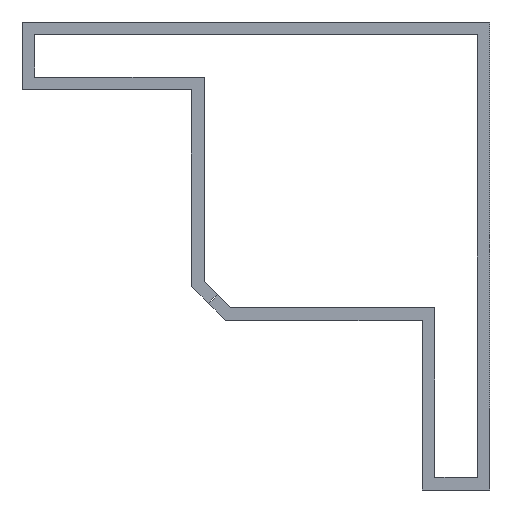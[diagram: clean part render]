
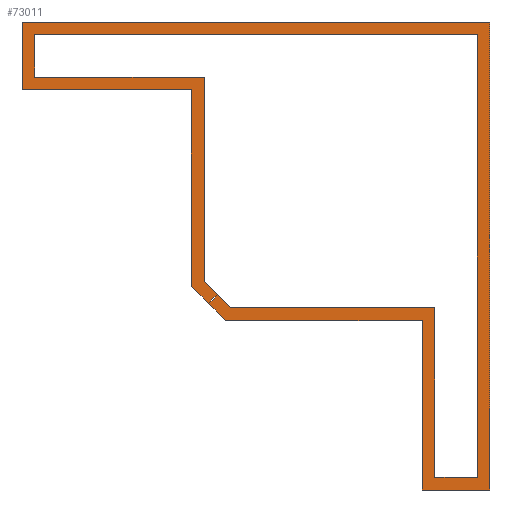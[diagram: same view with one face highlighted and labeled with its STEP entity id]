
A CAD part, front view. The second image highlights one B-rep face of the part: STEP entity #73011.
In plain terms, the highlighted planar face has unit normal (0, -1, 0).
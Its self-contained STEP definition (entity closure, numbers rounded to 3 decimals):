
#21 = EDGE_CURVE('',#22,#24,#26,.T.);
#22 = VERTEX_POINT('',#23);
#23 = CARTESIAN_POINT('',(-102.948,-528.411,73.691
    ));
#24 = VERTEX_POINT('',#25);
#25 = CARTESIAN_POINT('',(-103.903,-528.411,
    72.737));
#26 = LINE('',#27,#28);
#27 = CARTESIAN_POINT('',(-103.903,-528.411,
    72.737));
#28 = VECTOR('',#29,1.);
#29 = DIRECTION('',(-0.707,0.,-0.707));
#61 = EDGE_CURVE('',#62,#64,#66,.T.);
#62 = VERTEX_POINT('',#63);
#63 = CARTESIAN_POINT('',(-103.868,-528.411,
    72.701));
#64 = VERTEX_POINT('',#65);
#65 = CARTESIAN_POINT('',(-102.913,-528.411,
    73.656));
#66 = LINE('',#67,#68);
#67 = CARTESIAN_POINT('',(-103.868,-528.411,
    72.701));
#68 = VECTOR('',#69,1.);
#69 = DIRECTION('',(0.707,0.,0.707));
#8707 = EDGE_CURVE('',#8708,#8710,#8712,.T.);
#8708 = VERTEX_POINT('',#8709);
#8709 = CARTESIAN_POINT('',(-75.345,-528.411,
    54.259));
#8710 = VERTEX_POINT('',#8711);
#8711 = CARTESIAN_POINT('',(-79.845,-528.411,
    54.259));
#8712 = LINE('',#8713,#8714);
#8713 = CARTESIAN_POINT('',(-79.845,-528.411,
    54.259));
#8714 = VECTOR('',#8715,1.);
#8715 = DIRECTION('',(-1.,0.,0.));
#24215 = EDGE_CURVE('',#24216,#8708,#24218,.T.);
#24216 = VERTEX_POINT('',#24217);
#24217 = CARTESIAN_POINT('',(-75.345,-528.411,
    101.259));
#24218 = LINE('',#24219,#24220);
#24219 = CARTESIAN_POINT('',(-75.345,-528.411,
    54.259));
#24220 = VECTOR('',#24221,1.);
#24221 = DIRECTION('',(0.,0.,-1.));
#39705 = EDGE_CURVE('',#39706,#24216,#39708,.T.);
#39706 = VERTEX_POINT('',#39707);
#39707 = CARTESIAN_POINT('',(-122.345,-528.411,
    101.259));
#39708 = LINE('',#39709,#39710);
#39709 = CARTESIAN_POINT('',(-75.345,-528.411,
    101.259));
#39710 = VECTOR('',#39711,1.);
#39711 = DIRECTION('',(1.,0.,0.));
#39736 = EDGE_CURVE('',#39737,#39706,#39739,.T.);
#39737 = VERTEX_POINT('',#39738);
#39738 = CARTESIAN_POINT('',(-122.345,-528.411,
    96.759));
#39739 = LINE('',#39740,#39741);
#39740 = CARTESIAN_POINT('',(-122.345,-528.411,
    101.259));
#39741 = VECTOR('',#39742,1.);
#39742 = DIRECTION('',(0.,0.,1.));
#39807 = EDGE_CURVE('',#39808,#39737,#39810,.T.);
#39808 = VERTEX_POINT('',#39809);
#39809 = CARTESIAN_POINT('',(-104.345,-528.411,
    96.759));
#39810 = LINE('',#39811,#39812);
#39811 = CARTESIAN_POINT('',(-122.345,-528.411,
    96.759));
#39812 = VECTOR('',#39813,1.);
#39813 = DIRECTION('',(-1.,0.,0.));
#39849 = EDGE_CURVE('',#39850,#39808,#39852,.T.);
#39850 = VERTEX_POINT('',#39851);
#39851 = CARTESIAN_POINT('',(-104.345,-528.411,
    75.088));
#39852 = LINE('',#39853,#39854);
#39853 = CARTESIAN_POINT('',(-104.345,-528.411,
    96.759));
#39854 = VECTOR('',#39855,1.);
#39855 = DIRECTION('',(0.,0.,1.));
#39881 = EDGE_CURVE('',#39882,#64,#39884,.T.);
#39882 = VERTEX_POINT('',#39883);
#39883 = CARTESIAN_POINT('',(-101.516,-528.411,
    72.259));
#39884 = LINE('',#39885,#39886);
#39885 = CARTESIAN_POINT('',(-104.345,-528.411,
    75.088));
#39886 = VECTOR('',#39887,1.);
#39887 = DIRECTION('',(-0.707,0.,0.707));
#39940 = EDGE_CURVE('',#39941,#39882,#39943,.T.);
#39941 = VERTEX_POINT('',#39942);
#39942 = CARTESIAN_POINT('',(-79.845,-528.411,
    72.259));
#39943 = LINE('',#39944,#39945);
#39944 = CARTESIAN_POINT('',(-101.516,-528.411,
    72.259));
#39945 = VECTOR('',#39946,1.);
#39946 = DIRECTION('',(-1.,0.,0.));
#40002 = EDGE_CURVE('',#8710,#39941,#40003,.T.);
#40003 = LINE('',#40004,#40005);
#40004 = CARTESIAN_POINT('',(-79.845,-528.411,
    72.259));
#40005 = VECTOR('',#40006,1.);
#40006 = DIRECTION('',(0.,0.,1.));
#55483 = EDGE_CURVE('',#55484,#55486,#55488,.T.);
#55484 = VERTEX_POINT('',#55485);
#55485 = CARTESIAN_POINT('',(-73.995,-528.411,
    102.609));
#55486 = VERTEX_POINT('',#55487);
#55487 = CARTESIAN_POINT('',(-73.995,-528.411,
    52.909));
#55488 = LINE('',#55489,#55490);
#55489 = CARTESIAN_POINT('',(-73.995,-528.411,
    52.909));
#55490 = VECTOR('',#55491,1.);
#55491 = DIRECTION('',(0.,0.,-1.));
#70991 = VERTEX_POINT('',#70992);
#70992 = CARTESIAN_POINT('',(-123.695,-528.411,
    102.609));
#70998 = EDGE_CURVE('',#70991,#55484,#70999,.T.);
#70999 = LINE('',#71000,#71001);
#71000 = CARTESIAN_POINT('',(-73.995,-528.411,
    102.609));
#71001 = VECTOR('',#71002,1.);
#71002 = DIRECTION('',(1.,0.,0.));
#71022 = VERTEX_POINT('',#71023);
#71023 = CARTESIAN_POINT('',(-123.695,-528.411,
    95.409));
#71029 = EDGE_CURVE('',#71022,#70991,#71030,.T.);
#71030 = LINE('',#71031,#71032);
#71031 = CARTESIAN_POINT('',(-123.695,-528.411,
    102.609));
#71032 = VECTOR('',#71033,1.);
#71033 = DIRECTION('',(0.,0.,1.));
#71093 = VERTEX_POINT('',#71094);
#71094 = CARTESIAN_POINT('',(-105.695,-528.411,
    95.409));
#71100 = EDGE_CURVE('',#71093,#71022,#71101,.T.);
#71101 = LINE('',#71102,#71103);
#71102 = CARTESIAN_POINT('',(-123.695,-528.411,
    95.409));
#71103 = VECTOR('',#71104,1.);
#71104 = DIRECTION('',(-1.,0.,0.));
#71135 = EDGE_CURVE('',#71136,#71093,#71138,.T.);
#71136 = VERTEX_POINT('',#71137);
#71137 = CARTESIAN_POINT('',(-105.695,-528.411,
    74.529));
#71138 = LINE('',#71139,#71140);
#71139 = CARTESIAN_POINT('',(-105.695,-528.411,
    95.409));
#71140 = VECTOR('',#71141,1.);
#71141 = DIRECTION('',(0.,0.,1.));
#71166 = EDGE_CURVE('',#71167,#62,#71169,.T.);
#71167 = VERTEX_POINT('',#71168);
#71168 = CARTESIAN_POINT('',(-102.076,-528.411,
    70.909));
#71169 = LINE('',#71170,#71171);
#71170 = CARTESIAN_POINT('',(-105.695,-528.411,
    74.529));
#71171 = VECTOR('',#71172,1.);
#71172 = DIRECTION('',(-0.707,0.,0.707));
#72891 = EDGE_CURVE('',#72892,#71167,#72894,.T.);
#72892 = VERTEX_POINT('',#72893);
#72893 = CARTESIAN_POINT('',(-81.195,-528.411,
    70.909));
#72894 = LINE('',#72895,#72896);
#72895 = CARTESIAN_POINT('',(-102.076,-528.411,
    70.909));
#72896 = VECTOR('',#72897,1.);
#72897 = DIRECTION('',(-1.,0.,0.));
#72962 = EDGE_CURVE('',#72963,#72892,#72965,.T.);
#72963 = VERTEX_POINT('',#72964);
#72964 = CARTESIAN_POINT('',(-81.195,-528.411,
    52.909));
#72965 = LINE('',#72966,#72967);
#72966 = CARTESIAN_POINT('',(-81.195,-528.411,
    70.909));
#72967 = VECTOR('',#72968,1.);
#72968 = DIRECTION('',(0.,0.,1.));
#73000 = EDGE_CURVE('',#55486,#72963,#73001,.T.);
#73001 = LINE('',#73002,#73003);
#73002 = CARTESIAN_POINT('',(-81.195,-528.411,
    52.909));
#73003 = VECTOR('',#73004,1.);
#73004 = DIRECTION('',(-1.,0.,0.));
#73011 = ADVANCED_FACE('',(#73012),#73046,.T.);
#73012 = FACE_BOUND('',#73013,.T.);
#73013 = EDGE_LOOP('',(#73014,#73015,#73021,#73022,#73023,#73024,#73025,
    #73026,#73027,#73028,#73029,#73030,#73031,#73032,#73033,#73034,
    #73035,#73036,#73037,#73038,#73039,#73040));
#73014 = ORIENTED_EDGE('',*,*,#21,.F.);
#73015 = ORIENTED_EDGE('',*,*,#73016,.T.);
#73016 = EDGE_CURVE('',#22,#39850,#73017,.T.);
#73017 = LINE('',#73018,#73019);
#73018 = CARTESIAN_POINT('',(-104.345,-528.411,
    75.088));
#73019 = VECTOR('',#73020,1.);
#73020 = DIRECTION('',(-0.707,0.,0.707));
#73021 = ORIENTED_EDGE('',*,*,#39849,.T.);
#73022 = ORIENTED_EDGE('',*,*,#39807,.T.);
#73023 = ORIENTED_EDGE('',*,*,#39736,.T.);
#73024 = ORIENTED_EDGE('',*,*,#39705,.T.);
#73025 = ORIENTED_EDGE('',*,*,#24215,.T.);
#73026 = ORIENTED_EDGE('',*,*,#8707,.T.);
#73027 = ORIENTED_EDGE('',*,*,#40002,.T.);
#73028 = ORIENTED_EDGE('',*,*,#39940,.T.);
#73029 = ORIENTED_EDGE('',*,*,#39881,.T.);
#73030 = ORIENTED_EDGE('',*,*,#61,.F.);
#73031 = ORIENTED_EDGE('',*,*,#71166,.F.);
#73032 = ORIENTED_EDGE('',*,*,#72891,.F.);
#73033 = ORIENTED_EDGE('',*,*,#72962,.F.);
#73034 = ORIENTED_EDGE('',*,*,#73000,.F.);
#73035 = ORIENTED_EDGE('',*,*,#55483,.F.);
#73036 = ORIENTED_EDGE('',*,*,#70998,.F.);
#73037 = ORIENTED_EDGE('',*,*,#71029,.F.);
#73038 = ORIENTED_EDGE('',*,*,#71100,.F.);
#73039 = ORIENTED_EDGE('',*,*,#71135,.F.);
#73040 = ORIENTED_EDGE('',*,*,#73041,.F.);
#73041 = EDGE_CURVE('',#24,#71136,#73042,.T.);
#73042 = LINE('',#73043,#73044);
#73043 = CARTESIAN_POINT('',(-105.695,-528.411,
    74.529));
#73044 = VECTOR('',#73045,1.);
#73045 = DIRECTION('',(-0.707,0.,0.707));
#73046 = PLANE('',#73047);
#73047 = AXIS2_PLACEMENT_3D('',#73048,#73049,#73050);
#73048 = CARTESIAN_POINT('',(-73.995,-528.411,
    52.909));
#73049 = DIRECTION('',(0.,-1.,0.));
#73050 = DIRECTION('',(0.,0.,-1.));
